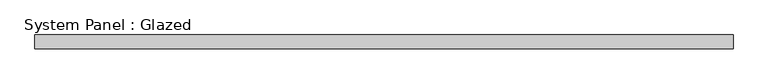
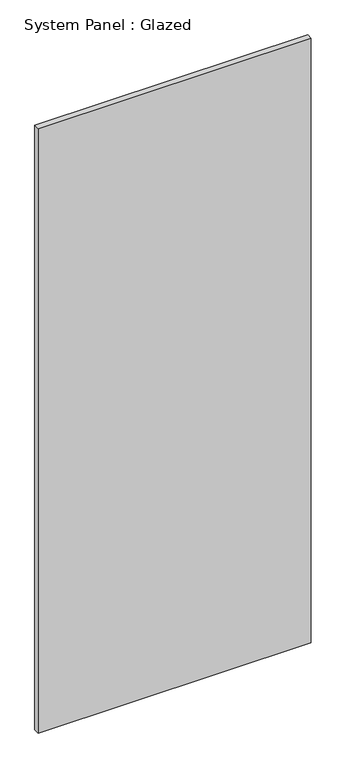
"""IFC4 building model written with IfcOpenShell, lengths in millimetres: plate geometry, System Panel : Glazed."""

from ifc_helpers import new_model, si_unit, origin, origin_with_axes, place, context, project, spatial, polyline, outline, extrude, source, transform, mapped, element, save


def system_panel_glazed_f800579e(model_context):
    return source(origin(), model_context, "Body", "SweptSolid", [
        extrude(outline(polyline([(638.1750001, -44.45), (-638.1750001, -44.45), (-638.1750001, -19.05), (638.1750001, -19.05), (638.1750001, -44.45)])), origin_with_axes(), (0.0, 0.0, 1.0), 2984.5),
    ])


if __name__ == "__main__":
    model = new_model("IFC4")
    model_context = context("Model", 3, world=origin())
    ifc_project = project(units=[si_unit("LENGTHUNIT", "METRE", prefix="MILLI")], contexts=[model_context])
    site = spatial("IfcSite", under=ifc_project)
    building = spatial("IfcBuilding", under=site)
    placement = place(None, origin())
    system_panel_glazed_shape = system_panel_glazed_f800579e(model_context)
    element("IfcPlate", 1, ObjectType="System Panel : Glazed", at=placement, inside=building, context=model_context, shape_type="MappedRepresentation", body=[
        mapped(system_panel_glazed_shape, transform((0.0, 0.0, 0.0), x_axis=(1.0, 0.0, 0.0), y_axis=(0.0, 1.0, 0.0), z_axis=(0.0, 0.0, 1.0))),
    ])
    save(model, "model.ifc")
